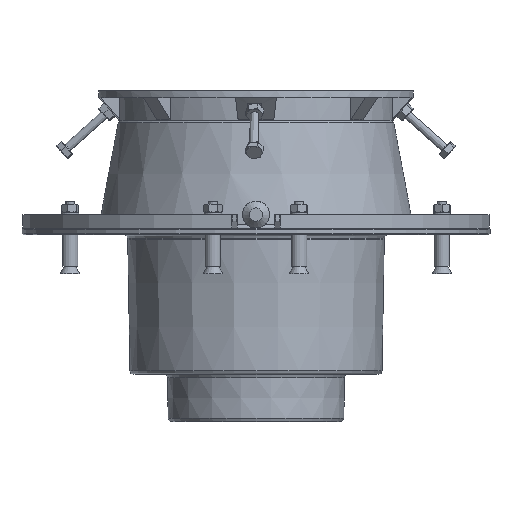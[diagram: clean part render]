
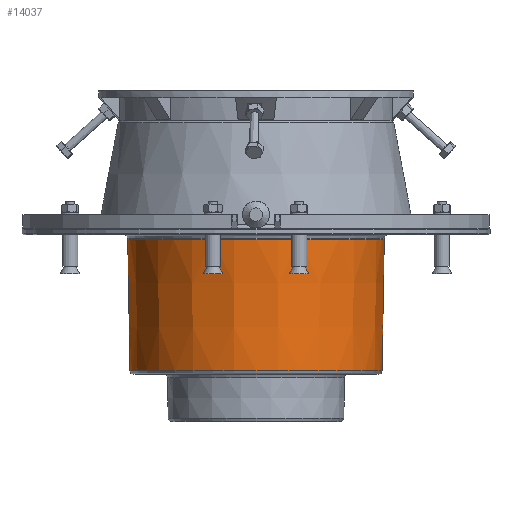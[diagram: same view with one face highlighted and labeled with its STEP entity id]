
A CAD part, left-side view. The second image highlights one B-rep face of the part: STEP entity #14037.
In plain terms, the highlighted conical face has half-angle 0.96 degrees and reference radius 89.717 mm.
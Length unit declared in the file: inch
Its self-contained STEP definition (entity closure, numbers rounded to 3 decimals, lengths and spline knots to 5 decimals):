
#553=CONICAL_SURFACE($,#14949,3.53218,0.96);
#3848=FACE_BOUND($,#4991,.T.);
#4179=FACE_OUTER_BOUND($,#4990,.T.);
#4990=EDGE_LOOP($,(#10016));
#4991=EDGE_LOOP($,(#10017));
#6090=CIRCLE($,#14948,3.56281);
#6091=CIRCLE($,#14950,3.50155);
#6521=VERTEX_POINT($,#20067);
#6522=VERTEX_POINT($,#20070);
#7937=EDGE_CURVE($,#6521,#6521,#6090,.T.);
#7938=EDGE_CURVE($,#6522,#6522,#6091,.T.);
#10016=ORIENTED_EDGE($,*,*,#7938,.F.);
#10017=ORIENTED_EDGE($,*,*,#7937,.T.);
#14037=ADVANCED_FACE($,(#4179,#3848),#553,.T.);
#14948=AXIS2_PLACEMENT_3D($,#20068,#16281,#16282);
#14949=AXIS2_PLACEMENT_3D($,#20069,#16283,#16284);
#14950=AXIS2_PLACEMENT_3D($,#20071,#16285,#16286);
#16281=DIRECTION('center_axis',(0.,-1.,0.));
#16282=DIRECTION('ref_axis',(1.,0.,0.));
#16283=DIRECTION('center_axis',(0.,1.,0.));
#16284=DIRECTION('ref_axis',(1.,0.,0.));
#16285=DIRECTION('center_axis',(0.,-1.,0.));
#16286=DIRECTION('ref_axis',(1.,0.,0.));
#20067=CARTESIAN_POINT('',(3.56281,2.4203,0.));
#20068=CARTESIAN_POINT('Origin',(0.,2.4203,0.));
#20069=CARTESIAN_POINT('Origin',(0.,0.59268,0.));
#20070=CARTESIAN_POINT('',(3.50155,-1.23493,0.));
#20071=CARTESIAN_POINT('Origin',(0.,-1.23493,0.));
